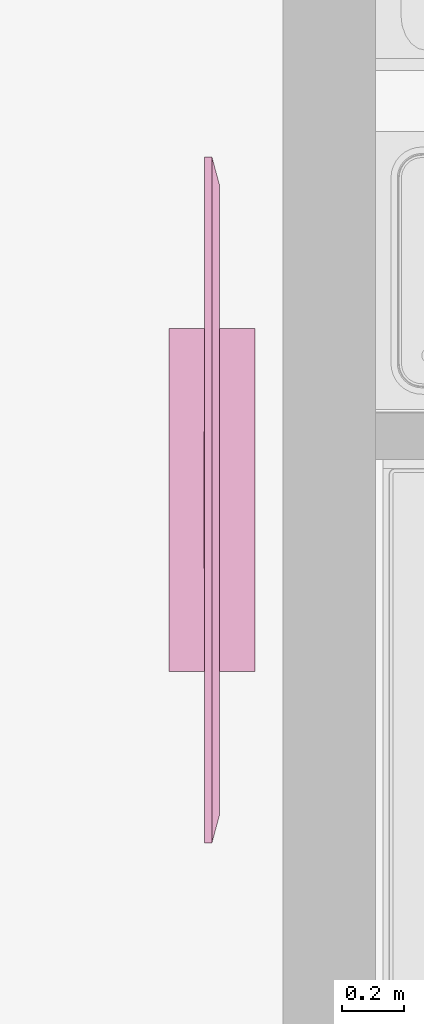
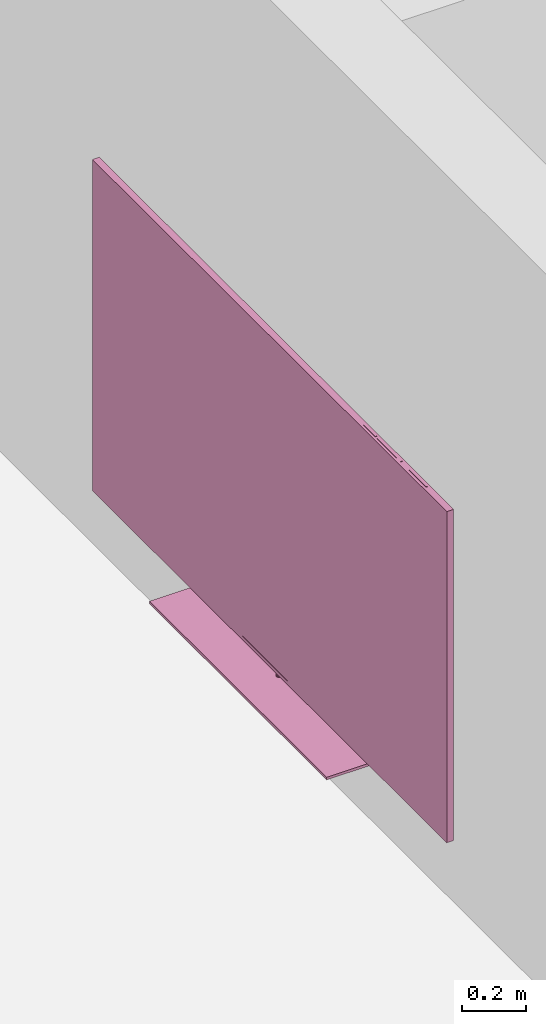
# One storey, part 121 of 172: 1 furnishing.
"""IFC2X3 building model written with IfcOpenShell, lengths in millimetres."""

from ifc_helpers import new_model, entity, si_unit, converted_unit, money_unit, direction, frame, origin_with_axes, place, context, subcontext, project, spatial, faceted_brep, source, transform, mapped, material, material_list, type_object, element, save


model = new_model("IFC2X3")

# Units and contexts
model_context = context("Model", 3, precision=1e-05, world=origin_with_axes(), true_north=direction((0.0, 1.0)))
body_context = subcontext(model_context, "Body", "Model", "MODEL_VIEW")
ifc_project = project(units=[si_unit("LENGTHUNIT", "METRE", prefix="MILLI"), si_unit("AREAUNIT", "SQUARE_METRE"), si_unit("VOLUMEUNIT", "CUBIC_METRE"), converted_unit("PLANEANGLEUNIT", "DEGREE", entity("IfcPlaneAngleMeasure", 0.0174532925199), si_unit("PLANEANGLEUNIT", "RADIAN"), dimensions=[0, 0, 0, 0, 0, 0, 0]), si_unit("SOLIDANGLEUNIT", "STERADIAN"), money_unit("USD"), converted_unit("TIMEUNIT", "Year", entity("IfcTimeMeasure", 31556926.0), si_unit("TIMEUNIT", "SECOND"), dimensions=[0, 0, 0, 0, 0, 0, 0]), si_unit("MASSUNIT", "GRAM"), si_unit("THERMODYNAMICTEMPERATUREUNIT", "DEGREE_CELSIUS"), si_unit("LUMINOUSINTENSITYUNIT", "LUMEN")], contexts=[model_context])

# Site, building, storey
site_placement = place(None, origin_with_axes())
site = spatial("IfcSite", under=ifc_project, at=site_placement, Name="Site", CompositionType="ELEMENT")
building_placement = place(site_placement, origin_with_axes())
building = spatial("IfcBuilding", under=site, at=building_placement, Name="Building", CompositionType="ELEMENT")
storey_placement = place(building_placement, frame((0.0, 0.0, 3200.0), z_axis=(0.0, 0.0, 1.0), x_axis=(1.0, 0.0, 0.0)))
storey = spatial("IfcBuildingStorey", under=building, at=storey_placement, Name="3KORRUS", CompositionType="ELEMENT", Elevation=3200.0)

# Furnishing
ifc_material = material(Name="Background")
ifc_material_list = material_list([ifc_material])
furnishing_element_type = type_object("IfcFurnishingElementType", Name="Flat Panel TV 19")
shared_shape = source(origin_with_axes(), body_context, "Body", "Brep", [
    faceted_brep([(-554.735, 163.684, 0.0), (-1664.204, 163.684, 0.0), (-1664.204, 163.684, 10.0), (-554.735, 163.684, 10.0), (-554.735, -113.684, 0.0), (-1664.204, -113.684, 0.0), (-1664.204, -113.684, 10.0), (-554.735, -113.684, 10.0)], [[[0, 1, 2, 3]], [[0, 4, 5, 1]], [[1, 5, 6, 2]], [[3, 2, 6, 7]], [[4, 0, 3, 7]], [[5, 4, 7, 6]]]),
    faceted_brep([(-1102.022, 27.679, 66.0), (-1099.894, 29.465, 66.0), (-1097.723, 33.225, 66.0), (-1096.969, 37.5, 66.0), (-1097.723, 41.775, 66.0), (-1099.894, 45.535, 66.0), (-1103.219, 48.325, 66.0), (-1107.299, 49.81, 66.0), (-1111.64, 49.81, 66.0), (-1115.719, 48.325, 66.0), (-1119.045, 45.535, 66.0), (-1121.216, 41.775, 66.0), (-1121.969, 37.5, 66.0), (-1121.216, 33.225, 66.0), (-1119.045, 29.465, 66.0), (-1116.917, 27.679, 66.0), (-1103.219, 26.675, 62.25), (-1103.219, 26.675, 10.0), (-1099.894, 29.465, 10.0), (-1097.723, 33.225, 10.0), (-1096.969, 37.5, 10.0), (-1097.723, 41.775, 10.0), (-1099.894, 45.535, 10.0), (-1103.219, 48.325, 10.0), (-1107.299, 49.81, 10.0), (-1111.64, 49.81, 10.0), (-1115.719, 48.325, 10.0), (-1119.045, 45.535, 10.0), (-1121.216, 41.775, 10.0), (-1121.969, 37.5, 10.0), (-1121.216, 33.225, 10.0), (-1119.045, 29.465, 10.0), (-1115.719, 26.675, 10.0), (-1115.719, 26.675, 62.25), (-1111.64, 25.19, 56.709), (-1107.299, 25.19, 56.709), (-1107.299, 25.19, 10.0), (-1111.64, 25.19, 10.0)], [[[0, 1, 2, 3, 4, 5, 6, 7, 8, 9, 10, 11, 12, 13, 14, 15]], [[16, 17, 18, 1, 0]], [[2, 1, 18, 19]], [[3, 2, 19, 20]], [[4, 3, 20, 21]], [[5, 4, 21, 22]], [[6, 5, 22, 23]], [[7, 6, 23, 24]], [[8, 7, 24, 25]], [[9, 8, 25, 26]], [[10, 9, 26, 27]], [[11, 10, 27, 28]], [[12, 11, 28, 29]], [[13, 12, 29, 30]], [[14, 13, 30, 31]], [[15, 14, 31, 32, 33]], [[33, 34, 35, 16, 0, 15]], [[35, 36, 17, 16]], [[27, 26, 25, 24, 23, 22, 21, 20, 19, 18, 17, 36, 37, 32, 31, 30, 29, 28]], [[33, 32, 37, 34]], [[34, 37, 36, 35]]]),
    faceted_brep([(-1084.469, 34.378, 91.0), (-1084.469, 50.0, 91.0), (-1134.469, 50.0, 91.0), (-1134.469, 34.378, 91.0), (-1084.469, 27.679, 66.0), (-1084.469, 50.0, 66.0), (-1134.469, 50.0, 66.0), (-1134.469, 27.679, 66.0)], [[[0, 1, 2, 3]], [[4, 5, 1, 0]], [[2, 1, 5, 6]], [[3, 2, 6, 7]], [[7, 4, 0, 3]], [[7, 6, 5, 4]]]),
    faceted_brep([(-2198.939, 0.0, 76.0), (-2198.939, 0.0, 1301.653), (-2198.939, 1.0, 1301.653), (-2198.939, 1.0, 76.0), (-20.0, 0.0, 76.0), (-20.0, 0.0, 1301.653), (-20.0, 1.0, 1301.653), (-20.0, 1.0, 76.0)], [[[0, 1, 2, 3]], [[0, 4, 5, 1]], [[1, 5, 6, 2]], [[3, 2, 6, 7]], [[4, 0, 3, 7]], [[5, 4, 7, 6]]]),
    faceted_brep([(0.0, 0.0, 1321.653), (-2218.939, 0.0, 1321.653), (-2218.939, 0.0, 56.0), (0.0, 0.0, 56.0), (-20.0, 0.0, 76.0), (-2198.939, 0.0, 76.0), (-2198.939, 0.0, 1301.653), (-20.0, 0.0, 1301.653), (0.0, 25.0, 1321.653), (-2218.939, 25.0, 1321.653), (-2218.939, 25.0, 56.0), (0.0, 25.0, 56.0), (-20.0, 1.0, 76.0), (-2198.939, 1.0, 76.0), (-2198.939, 1.0, 1301.653), (-20.0, 1.0, 1301.653), (-93.301, 50.0, 1228.352), (-2125.638, 50.0, 1228.352), (-2125.638, 50.0, 149.301), (-93.301, 50.0, 149.301)], [[[0, 1, 2, 3], [4, 5, 6, 7]], [[8, 9, 1, 0]], [[9, 10, 2, 1]], [[10, 11, 3, 2]], [[11, 8, 0, 3]], [[4, 12, 13, 5]], [[5, 13, 14, 6]], [[6, 14, 15, 7]], [[7, 15, 12, 4]], [[16, 17, 9, 8]], [[17, 18, 10, 9]], [[18, 19, 11, 10]], [[19, 16, 8, 11]], [[13, 12, 15, 14]], [[18, 17, 16, 19]]]),
    faceted_brep([(-1109.469, -0.8, 61.0), (-1131.659, -0.8, 66.0), (-1131.659, 0.0, 66.0), (-1109.469, 0.0, 61.0), (-1087.28, -0.8, 66.0), (-887.576, -0.8, 71.0), (-1331.363, -0.8, 71.0), (-1331.363, 0.0, 71.0), (-887.576, 0.0, 71.0), (-1087.28, 0.0, 66.0)], [[[0, 1, 2, 3]], [[0, 4, 5, 6, 1]], [[1, 6, 7, 2]], [[3, 2, 7, 8, 9]], [[4, 0, 3, 9]], [[5, 4, 9, 8]], [[6, 5, 8, 7]]]),
    faceted_brep([(-295.859, 10.0, 1321.653), (-147.929, 10.0, 1321.653), (-147.929, 10.0, 1323.253), (-295.859, 10.0, 1323.253), (-295.859, 16.25, 1321.653), (-147.929, 16.25, 1321.653), (-147.929, 16.25, 1323.253), (-295.859, 16.25, 1323.253)], [[[0, 1, 2, 3]], [[1, 0, 4, 5]], [[2, 1, 5, 6]], [[3, 2, 6, 7]], [[0, 3, 7, 4]], [[5, 4, 7, 6]]]),
    faceted_brep([(-454.354, 10.0, 1321.653), (-306.425, 10.0, 1321.653), (-306.425, 10.0, 1323.253), (-454.354, 10.0, 1323.253), (-454.354, 16.25, 1321.653), (-306.425, 16.25, 1321.653), (-306.425, 16.25, 1323.253), (-454.354, 16.25, 1323.253)], [[[0, 1, 2, 3]], [[1, 0, 4, 5]], [[2, 1, 5, 6]], [[3, 2, 6, 7]], [[0, 3, 7, 4]], [[5, 4, 7, 6]]]),
    faceted_brep([(-538.885, 10.0, 1321.653), (-464.921, 10.0, 1321.653), (-464.921, 10.0, 1323.253), (-538.885, 10.0, 1323.253), (-538.885, 16.25, 1321.653), (-464.921, 16.25, 1321.653), (-464.921, 16.25, 1323.253), (-538.885, 16.25, 1323.253)], [[[0, 1, 2, 3]], [[1, 0, 4, 5]], [[2, 1, 5, 6]], [[3, 2, 6, 7]], [[0, 3, 7, 4]], [[5, 4, 7, 6]]]),
])
furnishing_placement = place(storey_placement, frame((-6544.35735934, -17421.026176, 500.0), z_axis=(0.0, 0.0, 1.0), x_axis=(0.0, -1.0, 0.0)))
element("IfcFurnishingElement", 1, at=furnishing_placement, inside=storey, type_object=furnishing_element_type, material=ifc_material_list, Name="FU - 005", context=body_context, shape_type="MappedRepresentation", body=[
    mapped(shared_shape, transform((0.0, 0.0, 0.0))),
])

save(model, "model.ifc")
